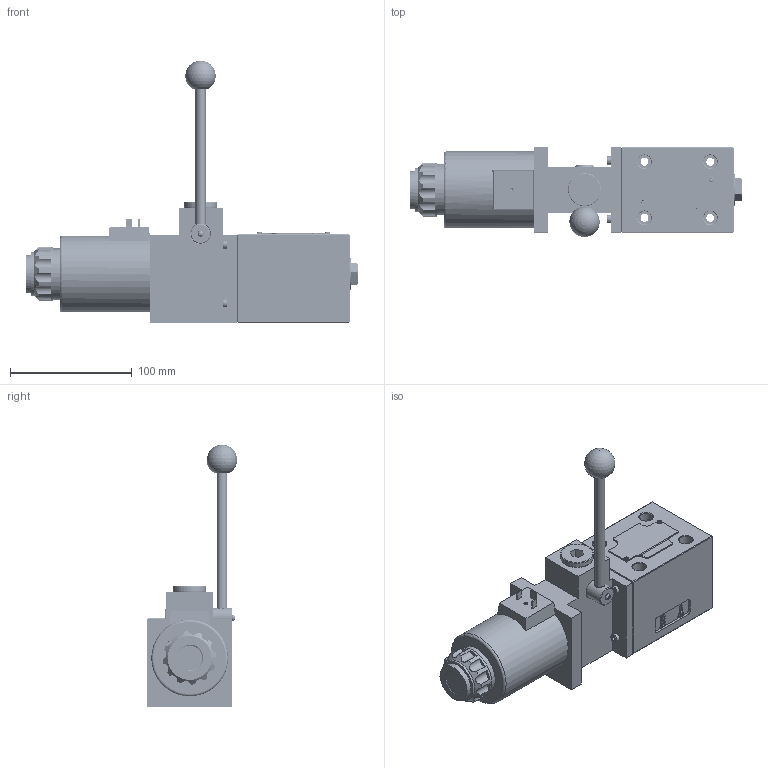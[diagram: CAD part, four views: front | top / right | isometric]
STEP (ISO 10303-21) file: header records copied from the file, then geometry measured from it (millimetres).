
FILE_DESCRIPTION(/* description */ (''),/* implementation_level */ '2;1');
FILE_NAME(/* name */ '4WEMM10-3XJ电磁手动换向阀（二位阀电磁铁在B端）.prt.stp',/* time_stamp */ '2022-03-30T19:40:56+08:00',/* author */ (''),/* organization */ (''),/* preprocessor_version */ 'ST-DEVELOPER v16.7',/* originating_system */ 'SIEMENS PLM Software NX 12.0',/* authorisation */ '');
FILE_SCHEMA (('AUTOMOTIVE_DESIGN { 1 0 10303 214 3 1 1 1 }'));
Products named in the file (1): 4WEMM10-3XJ电磁手动换向阀（二位阀电磁铁在B
端）
Bounding box: 272.4 x 73.9 x 215.5 mm (x, y, z)
Volume: 809683.2 mm3; surface area: 173218.3 mm2
Topology: 24 solids, 26 shells, 1153 faces, 2967 edges, 1918 vertices
Faces by surface type: plane 593, cylinder 359, cone 79, bspline 70, torus 43, sphere 8, extrusion 1
Full cylindrical faces by diameter (mm): 1.5 x2, 1.8 x4, 1.9 x2, 2.5 x1, 2.55 x18, 3 x1, 3.2 x42, 3.6 x9, 4 x3, 4.5 x4, 5 x1, 6 x1, 6.6 x4, 6.78 x4, 8 x2, 8.5 x1, 10 x1, 11 x9, 12 x1, 15.7 x5, 16 x4, 16.2 x1, 16.5 x2, 17 x2, 18.8 x2, 19 x1, 19.082 x1, 21 x2, 21.4 x2, 21.5 x1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
Entity records: 118297 total; most frequent: CARTESIAN_POINT 93596, ORIENTED_EDGE 5030, DIRECTION 4671, EDGE_CURVE 2515, VERTEX_POINT 1733, AXIS2_PLACEMENT_3D 1651, VECTOR 1369, LINE 1368
